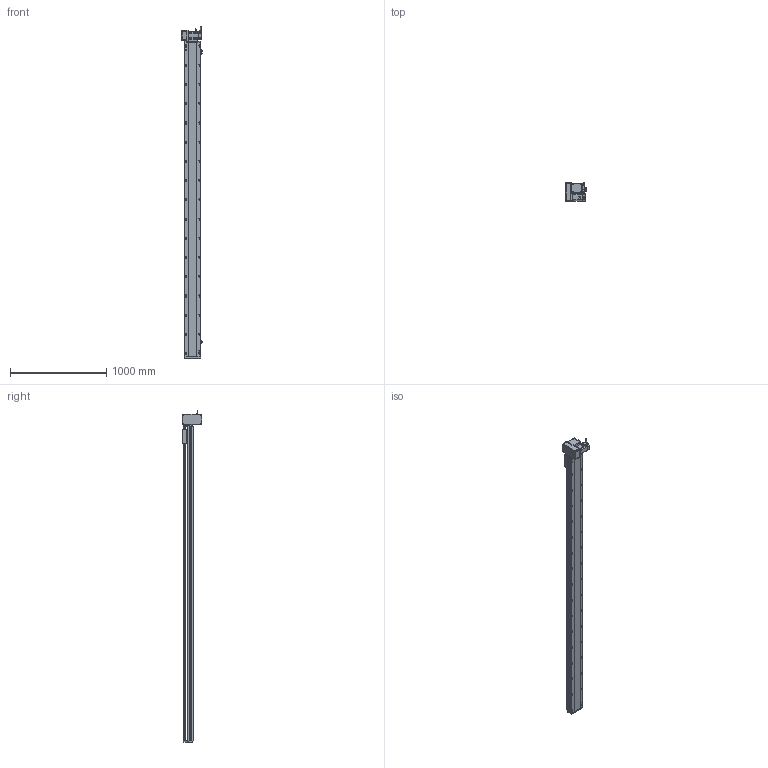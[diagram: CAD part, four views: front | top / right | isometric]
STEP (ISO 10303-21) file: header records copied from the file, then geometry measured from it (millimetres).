
FILE_DESCRIPTION (( 'STEP AP214' ), '1' );
FILE_NAME ('RTB17S-XX-3000-LM-M75-C4.STEP', '2025-12-12T00:49:47', ( '' ), ( '' ), 'SwSTEP 2.0', 'SolidWorks 2018', '' );
FILE_SCHEMA (( 'AUTOMOTIVE_DESIGN' ));
Length unit declared in the file: millimetre
Products named in the file (15): RTB22S-GY-018P^RTB17S-LM-々湍釱蚾饜-750W_RTB17S-XX-XX-LM-M75-C4; RTB17S-XX-3000-LM-M75-C4; EE672^RTB17S-XX-XX-LM-M75-C4; RTB17-R-011菁釱^RTB17S-XX-XX-LM-M75-C4; RTB17S-L-007奻裔^RTB17S-XX-XX-LM-M75-C4; RTB22S-GY-008-M75--萇儂啣^RTB17S-LM-々湍釱蚾饜-750W_RTB17S-XX-XX-LM-M75-C4; RTB22S-GY-005P^RTB17S-LM-々湍釱蚾饜-750W_RTB17S-XX-XX-LM-M75-C4; RTB17S-L-014-T20-P75--々湍釱^RTB17S-LM-々湍釱蚾饜-750W_RTB17S-XX-XX-LM-M75-C4; RTB17S-LM-々湍釱蚾饜-750W^RTB17S-XX-XX-LM-M75-C4; RTB17S-賑釱^RTB17S-XX-XX-LM-M75-C4; 750W萇儂^RTB17S-XX-XX-LM-M75-C4; RTB22S-GY-017P^RTB17S-LM-々湍釱蚾饜-750W_RTB17S-XX-XX-LM-M75-C4; RTB17S-L-001-耜醱啣^RTB17S-XX-XX-LM-M75-C4; RTH13-BL-012覜茼え俋离^RTB17S-賑釱_RTB17S-XX-XX-LM-M75-C4; RTB17S-L-004-賑釱^RTB17S-賑釱_RTB17S-XX-XX-LM-M75-C4
Assembly tree (17 placements, depth 3):
  RTB17S-XX-3000-LM-M75-C4
    RTB17-R-011菁釱^RTB17S-XX-XX-LM-M75-C4
    EE672^RTB17S-XX-XX-LM-M75-C4  x3
    RTB17S-L-001-耜醱啣^RTB17S-XX-XX-LM-M75-C4
    RTB17S-賑釱^RTB17S-XX-XX-LM-M75-C4
      RTB17S-L-004-賑釱^RTB17S-賑釱_RTB17S-XX-XX-LM-M75-C4
      RTH13-BL-012覜茼え俋离^RTB17S-賑釱_RTB17S-XX-XX-LM-M75-C4
    RTB17S-L-007奻裔^RTB17S-XX-XX-LM-M75-C4
    750W萇儂^RTB17S-XX-XX-LM-M75-C4
    RTB17S-LM-々湍釱蚾饜-750W^RTB17S-XX-XX-LM-M75-C4
      RTB17S-L-014-T20-P75--々湍釱^RTB17S-LM-々湍釱蚾饜-750W_RTB17S-XX-XX-LM-M75-C4
      RTB22S-GY-005P^RTB17S-LM-々湍釱蚾饜-750W_RTB17S-XX-XX-LM-M75-C4
      RTB22S-GY-017P^RTB17S-LM-々湍釱蚾饜-750W_RTB17S-XX-XX-LM-M75-C4  x2
      RTB22S-GY-008-M75--萇儂啣^RTB17S-LM-々湍釱蚾饜-750W_RTB17S-XX-XX-LM-M75-C4
      RTB22S-GY-018P^RTB17S-LM-々湍釱蚾饜-750W_RTB17S-XX-XX-LM-M75-C4
Bounding box: 210.4 x 200 x 3452.2 mm (x, y, z)
Volume: 24706077.9 mm3; surface area: 4526678.2 mm2
Topology: 17 solids, 17 shells, 2249 faces, 6322 edges, 4094 vertices
Faces by surface type: plane 990, cylinder 843, bspline 294, cone 110, sphere 8, torus 4
Entity records: 65782 total; most frequent: CARTESIAN_POINT 19586, ORIENTED_EDGE 9488, DIRECTION 8762, EDGE_CURVE 4744, AXIS2_PLACEMENT_3D 3114, VERTEX_POINT 3098, VECTOR 2534, LINE 2534
